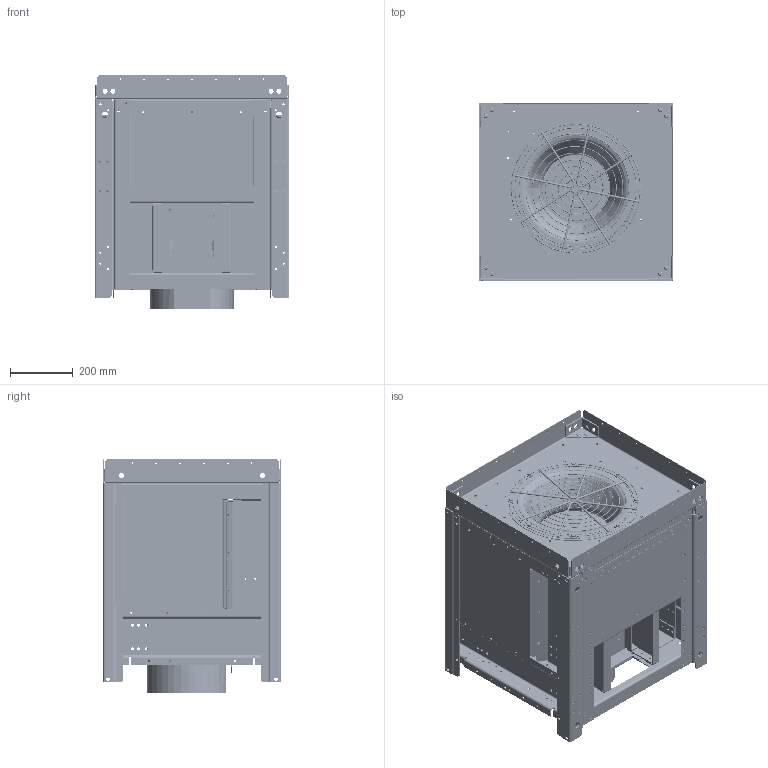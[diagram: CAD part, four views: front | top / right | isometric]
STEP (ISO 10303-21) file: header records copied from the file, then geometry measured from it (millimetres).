
FILE_DESCRIPTION((''),'2;1');
FILE_NAME('135_100_213T_ASM_ASM','2016-08-03T',('cthatcc'),(''),'CREO PARAMETRIC BY PTC INC, 2016050','CREO PARAMETRIC BY PTC INC, 2016050','');
FILE_SCHEMA(('CONFIG_CONTROL_DESIGN'));
Length unit declared in the file: inch
Products named in the file (74): 0575820016_1_1; 0575830008_1_1; 0575740012_1_1; 0575880017_1_1; 0578340001_1_1; 057834_MIR_1_1; 0575820016_MIR_1_1; 0575990016_ASM_2_ASM_1_ASM; 0575680018; NEMA_213T_TEFC_1_1; 0575690009_1_1; 0576650019_1_1; 0575650010_5_1; 0575760008_8_1; 0575880018_1_1; 057581_1_1; NUT-INSERT_RIVET_31-18THD_1_1; WA012_1_1; HCS048_2_1; 0575660016_1_1; 0575700025_1_1; 0575790022_1_1; 0575890021_ASM_1_ASM_1_ASM; 0575660017_1_1; 0575700026_1_1; 0575790023_1_1; 0575890022_ASM_1_ASM_1_ASM; 058559_1_1; INLETGUARD_135_1_1; RING_T_1_1; RING_V_1_1; ROD_135_1_1; 0576560007_ASM_1_ASM_1_ASM; 0585510017_1_1; 0585510018_1_1; WHEEL_DUMMY_135-120_1_1; 057699-135-001_4_1; 057699-135-012_4_1; 057699-135-002_4_1; 057699-135-010_4_1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
Assembly tree (179 placements, depth 6):
  135_100_213T_ASM_ASM
    135_100_213T_ASM_ASM_1_ASM
      135_100_213T_TRANE_ASM_20_ASM_1_ASM
        0575990016_ASM_2_ASM_1_ASM  x2
          0575820016_1_1
          0575830008_1_1
          0575740012_1_1
          0575880017_1_1
          0578340001_1_1
          057834_MIR_1_1
          0575820016_MIR_1_1
        0575680018
        NEMA_213T_TEFC_1_1
        0575690009_1_1
        0576650019_1_1
        0575650010_5_1
        0575760008_8_1
        0575880018_1_1  x3
        057581_1_1  x4
        NUT-INSERT_RIVET_31-18THD_1_1  x8
        WA012_1_1  x8
        HCS048_2_1  x8
        0575890021_ASM_1_ASM_1_ASM
          0575660016_1_1
          0575700025_1_1
          0575790022_1_1
        0575890022_ASM_1_ASM_1_ASM
          0575660017_1_1
          0575700026_1_1
          0575790023_1_1
        058559_1_1
        0576560007_ASM_1_ASM_1_ASM
          INLETGUARD_135_1_1
          RING_T_1_1
          RING_V_1_1
          ROD_135_1_1  x4
        0585510017_1_1  x2
        0585510018_1_1  x2
        WHEEL_DUMMY_135-120_1_1
        057699-135_ASM_40_ASM_1_ASM
          057699-135__ASM_4_ASM_1_ASM
            057699-135-001_4_1
            057699-135-012_4_1
            057699-135-002_4_1
            057699-135-010_4_1
            057699-135-013_4_1
            057699-135-004_4_1  x11
            057699-135-008_4_1  x14
            057699-135-014_4_1  x2
            057699-135-015_4_1  x2
            057699-135-009_4_1
            057699-135-011_4_1
            057699-135-016_4_1
            057699-135-017_4_1
            057699-135-018_4_1
            057699-135-019_4_1
            X01057699-135-020_4_1
            057699-135-021_4_1
          057699-135-MIR_ASM_6_ASM_1_ASM
            057699-135-001_MIR_5_1
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Bounding box: 623.06 x 568.96 x 745.75 mm (x, y, z)
Volume: 67227262.5 mm3; surface area: 11219631.1 mm2
Topology: 175 solids, 175 shells, 4773 faces, 11928 edges, 7558 vertices
Faces by surface type: cylinder 2691, plane 1790, torus 164, bspline 70, cone 58
Entity records: 108786 total; most frequent: CARTESIAN_POINT 31986, DIRECTION 17006, ORIENTED_EDGE 14564, EDGE_CURVE 7282, AXIS2_PLACEMENT_3D 6633, VERTEX_POINT 4552, EDGE_LOOP 4108, VECTOR 3740
